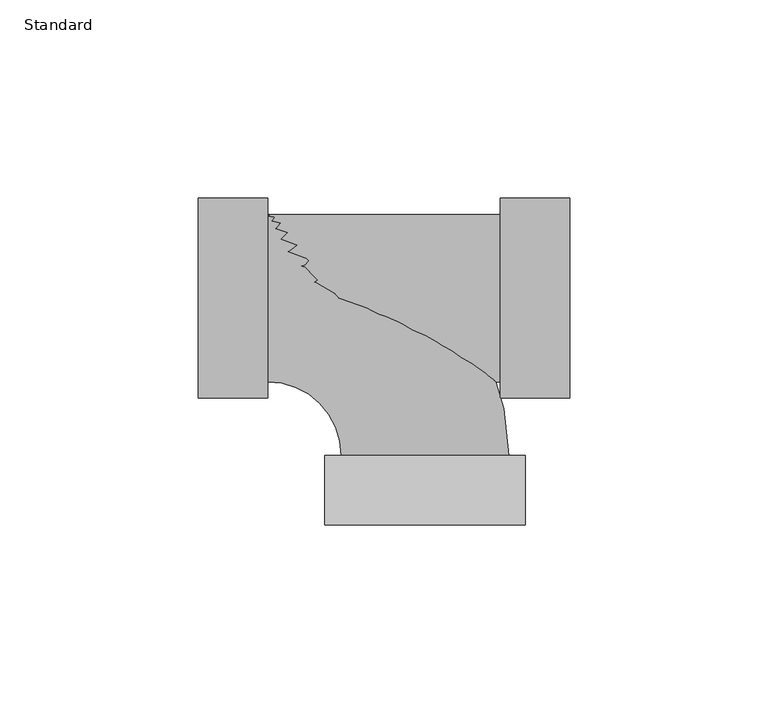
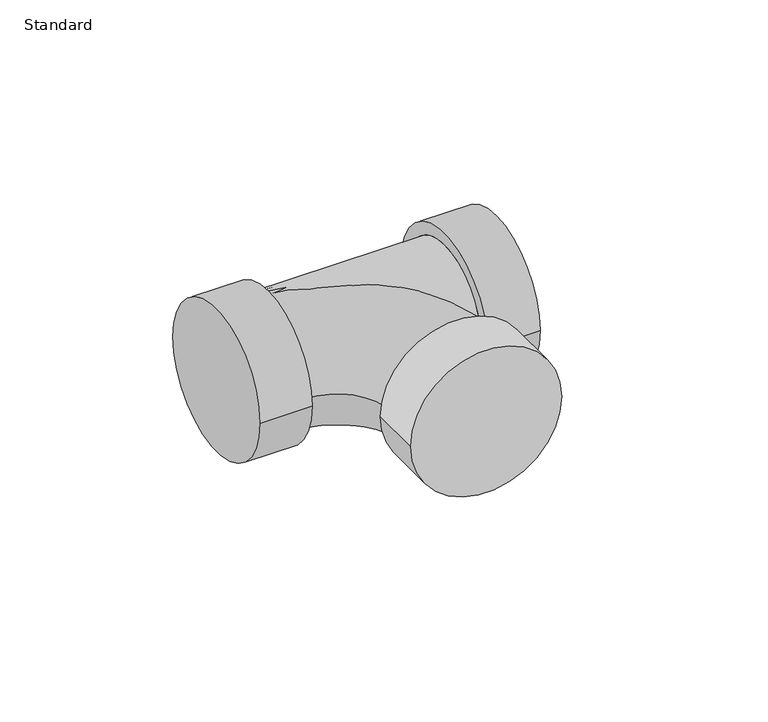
"""IFC4 building model written with IfcOpenShell, lengths in millimetres: pipe fitting geometry, Tee_Lubrizol_CPVC-FlowGuard_MX : Standard."""

from ifc_helpers import new_model, si_unit, point, frame, origin, place, context, project, spatial, circle_curve, ellipse_curve, trimmed, source, transform, mapped, element, save
from ifc_brep_helpers import plane_surface, cylinder_surface, revolved_surface, advanced_brep


def standard_8136c827(model_context):
    return source(origin(), model_context, "Body", "AdvancedBrep", [
        advanced_brep(
        [(-39.7002, -21.082, 0.0), (-39.7002, 21.082, 0.0), (-21.082, -39.7002, 0.0), (21.082, -39.7002, 0.0), (25.2349, -57.15, 0.0), (-25.2349, -57.15, 0.0), (25.2349, -39.7002, 0.0), (-25.2349, -39.7002, 0.0)],
        [
            (0, 1, circle_curve(frame((-39.7002, 0.0, 0.0), z_axis=(-1.0, 0.0, 0.0), x_axis=(0.0, 1.0, 0.0)), 21.082)),
            (1, 0, circle_curve(frame((-39.7002, 0.0, 0.0), z_axis=(-1.0, 0.0, 0.0), x_axis=(0.0, 1.0, 0.0)), 21.082)),
            (0, 2, circle_curve(frame((-39.7002, -39.7002, 0.0), z_axis=(0.0, 0.0, -1.0), x_axis=(0.0, 1.0, 0.0)), 18.6182)),
            (2, 3, circle_curve(frame((0.0, -39.7002, 0.0), z_axis=(-1.1395941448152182e-12, 1.0, 0.0), x_axis=(1.0, 1.1395941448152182e-12, 0.0)), 21.082)),
            (3, 1, circle_curve(frame((-39.7002, -39.7002, 0.0), z_axis=(0.0, 0.0, 1.0), x_axis=(0.0, 1.0, 0.0)), 60.7822)),
            (3, 2, circle_curve(frame((0.0, -39.7002, 0.0), z_axis=(0.0, 1.0, 0.0), x_axis=(1.0, 0.0, 0.0)), 21.082)),
            (4, 5, circle_curve(frame((0.0, -57.15, 0.0), z_axis=(0.0, -1.0, 0.0), x_axis=(-1.0, 0.0, 0.0)), 25.2349)),
            (5, 4, circle_curve(frame((0.0, -57.15, 0.0), z_axis=(0.0, -1.0, 0.0), x_axis=(-1.0, 0.0, 0.0)), 25.2349)),
            (6, 7, circle_curve(frame((0.0, -39.7002, 0.0), z_axis=(0.0, 1.0, 0.0), x_axis=(-1.0, 0.0, 0.0)), 25.2349)),
            (7, 6, circle_curve(frame((0.0, -39.7002, 0.0), z_axis=(0.0, 1.0, 0.0), x_axis=(-1.0, 0.0, 0.0)), 25.2349)),
            (4, 6),
            (7, 5),
        ],
        [
            plane_surface(frame((-39.7002, 0.0, 0.0), z_axis=(-1.0, 0.0, 0.0), x_axis=(0.0, 0.0, 1.0))),
            revolved_surface(trimmed(ellipse_curve(frame((-39.7002, 0.0, 0.0), z_axis=(-1.0, 0.0, 0.0), x_axis=(0.0, 1.0, 0.0)), 21.082, 21.082), [point((-39.7002, -21.082, 0.0))], [point((-39.7002, 21.082, 0.0))], True, "CARTESIAN"), (-39.7002, -39.7002, 0.0), (0.0, 0.0, -1.0)),
            revolved_surface(trimmed(ellipse_curve(frame((-39.7002, 0.0, 0.0), z_axis=(-1.0, 0.0, 0.0), x_axis=(0.0, 1.0, 0.0)), 21.082, 21.082), [point((-39.7002, 21.082, 0.0))], [point((-39.7002, -21.082, 0.0))], True, "CARTESIAN"), (-39.7002, -39.7002, 0.0), (0.0, 0.0, -1.0)),
            plane_surface(frame((0.0, -57.15, 0.0), z_axis=(0.0, -1.0, 0.0), x_axis=(0.0, 0.0, 1.0))),
            plane_surface(frame((0.0, -39.7002, 0.0), z_axis=(0.0, 1.0, 0.0), x_axis=(0.0, 0.0, 1.0))),
            cylinder_surface(frame((0.0, -57.15, 0.0), z_axis=(0.0, -1.0, 0.0), x_axis=(-1.0, 0.0, 0.0)), 25.2349),
        ],
        [
            (0, [[1, 2]]),
            (1, [[-1, 3, 4, 5]]),
            (2, [[-2, -5, 6, -3]]),
            (3, [[7, 8]]),
            (4, [[9, 10], [-4, -6]]),
            (5, [[-7, 11, -10, 12]]),
            (5, [[-8, -12, -9, -11]]),
        ],
    ),
        advanced_brep(
        [(-39.7002, -21.082, 0.0), (19.05, -21.082, 0.0), (19.05, 21.082, 0.0), (-39.7002, 21.082, 0.0), (19.05, -25.2349, 0.0), (19.05, 25.2349, 0.0), (36.4998, -25.2349, 0.0), (36.4998, 25.2349, 0.0), (-57.15, -25.2349, 0.0), (-57.15, 25.2349, 0.0), (-39.7002, -25.2349, 0.0), (-39.7002, 25.2349, 0.0)],
        [
            (0, 1),
            (1, 2, circle_curve(frame((19.05, 0.0, 0.0), z_axis=(-1.0, 0.0, 0.0), x_axis=(0.0, 1.0, 0.0)), 21.082)),
            (2, 3),
            (3, 0, circle_curve(frame((-39.7002, 0.0, 0.0), z_axis=(1.0, 0.0, 0.0), x_axis=(0.0, 1.0, 0.0)), 21.082)),
            (0, 3, circle_curve(frame((-39.7002, 0.0, 0.0), z_axis=(1.0, 0.0, 0.0), x_axis=(0.0, 1.0, 0.0)), 21.082)),
            (2, 1, circle_curve(frame((19.05, 0.0, 0.0), z_axis=(-1.0, 0.0, 0.0), x_axis=(0.0, 1.0, 0.0)), 21.082)),
            (4, 5, circle_curve(frame((19.05, 0.0, 0.0), z_axis=(-1.0, 0.0, 0.0), x_axis=(0.0, 1.0, 0.0)), 25.2349)),
            (5, 4, circle_curve(frame((19.05, 0.0, 0.0), z_axis=(-1.0, 0.0, 0.0), x_axis=(0.0, 1.0, 0.0)), 25.2349)),
            (6, 7, circle_curve(frame((36.4998, 0.0, 0.0), z_axis=(1.0, 0.0, 0.0), x_axis=(0.0, 1.0, 0.0)), 25.2349)),
            (7, 6, circle_curve(frame((36.4998, 0.0, 0.0), z_axis=(1.0, 0.0, 0.0), x_axis=(0.0, 1.0, 0.0)), 25.2349)),
            (4, 6),
            (7, 5),
            (8, 9, circle_curve(frame((-57.15, 0.0, 0.0), z_axis=(-1.0, 0.0, 0.0), x_axis=(0.0, 1.0, 0.0)), 25.2349)),
            (9, 8, circle_curve(frame((-57.15, 0.0, 0.0), z_axis=(-1.0, 0.0, 0.0), x_axis=(0.0, 1.0, 0.0)), 25.2349)),
            (10, 11, circle_curve(frame((-39.7002, 0.0, 0.0), z_axis=(1.0, 0.0, 0.0), x_axis=(0.0, 1.0, 0.0)), 25.2349)),
            (11, 10, circle_curve(frame((-39.7002, 0.0, 0.0), z_axis=(1.0, 0.0, 0.0), x_axis=(0.0, 1.0, 0.0)), 25.2349)),
            (8, 10),
            (11, 9),
        ],
        [
            cylinder_surface(frame((-39.7002, 0.0, 0.0), z_axis=(-1.0, 0.0, 0.0), x_axis=(0.0, 1.0, 0.0)), 21.082),
            plane_surface(frame((19.05, 0.0, 0.0), z_axis=(-1.0, 0.0, 0.0), x_axis=(0.0, 0.0, 1.0))),
            plane_surface(frame((36.4998, 0.0, 0.0), z_axis=(1.0, 0.0, 0.0), x_axis=(0.0, 0.0, 1.0))),
            cylinder_surface(frame((19.05, 0.0, 0.0), z_axis=(-1.0, 0.0, 0.0), x_axis=(0.0, 1.0, 0.0)), 25.2349),
            plane_surface(frame((-57.15, 0.0, 0.0), z_axis=(-1.0, 0.0, 0.0), x_axis=(0.0, 0.0, 1.0))),
            plane_surface(frame((-39.7002, 0.0, 0.0), z_axis=(1.0, 0.0, 0.0), x_axis=(0.0, 0.0, 1.0))),
            cylinder_surface(frame((-57.15, 0.0, 0.0), z_axis=(-1.0, 0.0, 0.0), x_axis=(0.0, 1.0, 0.0)), 25.2349),
        ],
        [
            (0, [[1, 2, 3, 4]]),
            (0, [[-1, 5, -3, 6]]),
            (1, [[7, 8], [-2, -6]]),
            (2, [[9, 10]]),
            (3, [[-7, 11, -10, 12]]),
            (3, [[-8, -12, -9, -11]]),
            (4, [[13, 14]]),
            (5, [[15, 16], [-4, -5]]),
            (6, [[-13, 17, -16, 18]]),
            (6, [[-14, -18, -15, -17]]),
        ],
    ),
    ])


if __name__ == "__main__":
    model = new_model("IFC4")
    model_context = context("Model", 3, world=origin())
    ifc_project = project(units=[si_unit("LENGTHUNIT", "METRE", prefix="MILLI")], contexts=[model_context])
    site = spatial("IfcSite", under=ifc_project)
    building = spatial("IfcBuilding", under=site)
    placement = place(None, origin())
    standard_shape = standard_8136c827(model_context)
    element("IfcPipeFitting", 1, ObjectType="Tee_Lubrizol_CPVC-FlowGuard_MX : Standard", at=placement, inside=building, context=model_context, shape_type="MappedRepresentation", body=[
        mapped(standard_shape, transform((0.0, 0.0, 0.0), x_axis=(1.0, 0.0, 0.0), y_axis=(0.0, 1.0, 0.0), z_axis=(0.0, 0.0, 1.0))),
    ])
    save(model, "model.ifc")
